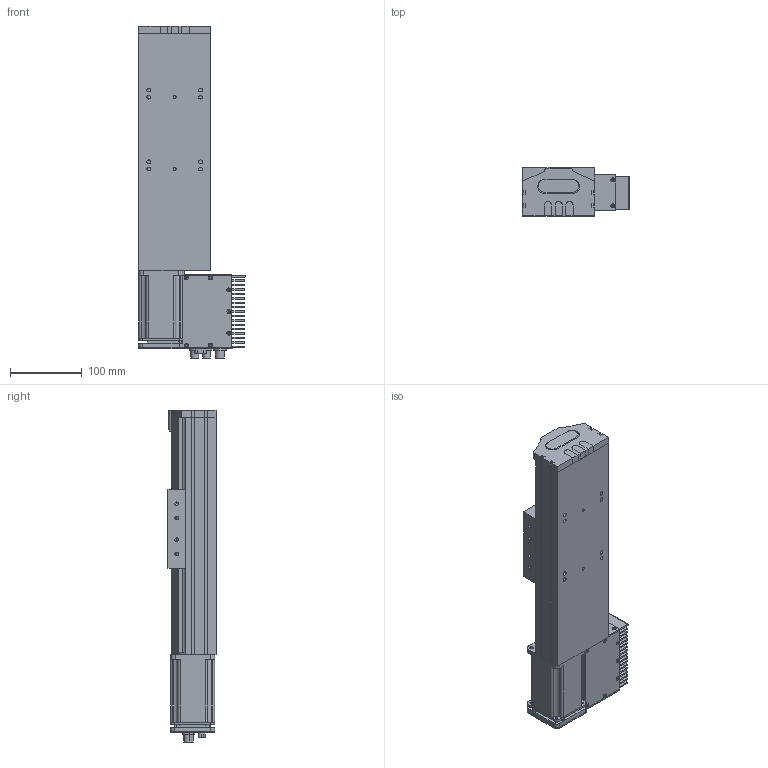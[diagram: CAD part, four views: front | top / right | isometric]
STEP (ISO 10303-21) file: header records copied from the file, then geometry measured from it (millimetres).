
FILE_DESCRIPTION (( 'STEP AP203' ), '1' );
FILE_NAME ('S 10 TSH MD S100.STEP', '2012-08-29T08:31:50', ( 'Conseil Régional Haute-Normandie' ), ( 'Conseil Régional Haute-Normandie' ), 'SwSTEP 2.0', 'SolidWorks 2010', '' );
FILE_SCHEMA (( 'CONFIG_CONTROL_DESIGN' ));
Length unit declared in the file: millimetre
Products named in the file (23): piece_plastique remplieTSH_Default; embout_modifié; BU45 Carte d''axe A11_5; BU41 Carte Alimentation P05_3; Colonnette_3; Connecteur rond D12 4cts_5; Sub D 9cts 90_X2_00B_X0__3; Vis TF 3 torkx_1_1; S 10 TSH MD S100; axe330_Default; palette tbn2; remplir_Default; Pièce2_Default; Assem1_7; T_X2_00F4_X0_le contre le moteur_5; Moteur 60BLDC90A_3; Couvercle_3; T_X2_00F4_X0_le fond_3; Connecteur rond D10 3cts_5; Radiateur profil_X2_00E9_X0_ 100x25_3; Colonnette ronde_3; T_X2_00F4_X0_le Arri_X2_00E8_X0_re_5; T_X2_00F4_X0_le lat_X2_00E9_X0_rale_5
Assembly tree (47 placements, depth 3):
  S 10 TSH MD S100
    axe330_Default
    piece_plastique remplieTSH_Default
      remplir_Default  x3
      embout_modifié
      Pièce2_Default
    Assem1_7
      Vis TF 3 torkx_1_1  x21
      T_X2_00F4_X0_le Arri_X2_00E8_X0_re_5
      Connecteur rond D10 3cts_5  x2
      Colonnette ronde_3
      Sub D 9cts 90_X2_00B_X0__3
      Colonnette_3  x2
      T_X2_00F4_X0_le fond_3
      T_X2_00F4_X0_le contre le moteur_5
      Couvercle_3
      Moteur 60BLDC90A_3
      T_X2_00F4_X0_le lat_X2_00E9_X0_rale_5  x2
      BU41 Carte Alimentation P05_3
      Connecteur rond D12 4cts_5
      BU45 Carte d''axe A11_5
      Radiateur profil_X2_00E9_X0_ 100x25_3
    palette tbn2
Bounding box: 148.26 x 66.75 x 461.6 mm (x, y, z)
Volume: 2431706.4 mm3; surface area: 415918.6 mm2
Topology: 45 solids, 45 shells, 1706 faces, 4355 edges, 2834 vertices
Faces by surface type: plane 795, cylinder 758, cone 150, torus 3
Entity records: 35566 total; most frequent: CARTESIAN_POINT 6023, DIRECTION 5788, ORIENTED_EDGE 5286, EDGE_CURVE 2643, AXIS2_PLACEMENT_3D 2112, VERTEX_POINT 1734, LINE 1564, VECTOR 1564
